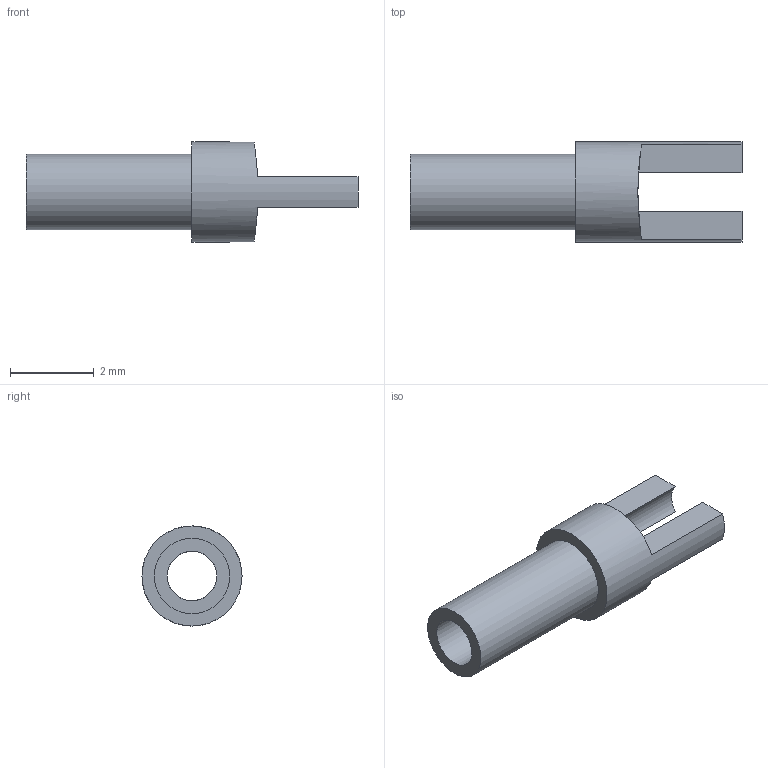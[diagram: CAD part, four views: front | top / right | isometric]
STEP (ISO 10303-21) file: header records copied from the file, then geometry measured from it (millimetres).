
FILE_DESCRIPTION(/* description */ (''),/* implementation_level */ '2;1');
FILE_NAME(/* name */ 'Z:\STEP folder\140-1941-04.ipt.stp',/* time_stamp */ '2016-12-07T10:40:08+00:00',/* author */ ('Paul Karlsons'),/* organization */ (''),/* preprocessor_version */ 'ST-DEVELOPER v15.2',/* originating_system */ 'Autodesk Inventor 2014',/* authorisation */ '');
FILE_SCHEMA (('AUTOMOTIVE_DESIGN { 1 0 10303 214 3 1 1 }'));
Length unit declared in the file: millimetre
Products named in the file (1): 140-1941-04
Bounding box: 7.92 x 2.39 x 2.39 mm (x, y, z)
Volume: 13.1 mm3; surface area: 74.9 mm2
Topology: 1 solids, 1 shells, 13 faces, 33 edges, 22 vertices
Faces by surface type: plane 8, cylinder 5
Full cylindrical faces by diameter (mm): 1.181 x1, 1.8 x1, 2.388 x1
Entity records: 443 total; most frequent: CARTESIAN_POINT 122, DIRECTION 64, ORIENTED_EDGE 56, EDGE_CURVE 28, AXIS2_PLACEMENT_3D 26, VERTEX_POINT 20, EDGE_LOOP 18, ADVANCED_FACE 13
